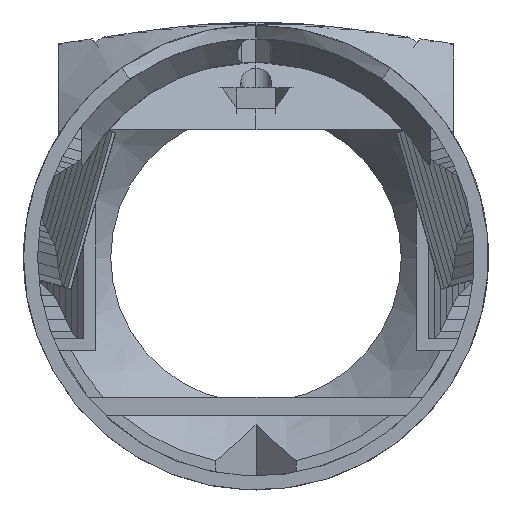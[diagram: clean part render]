
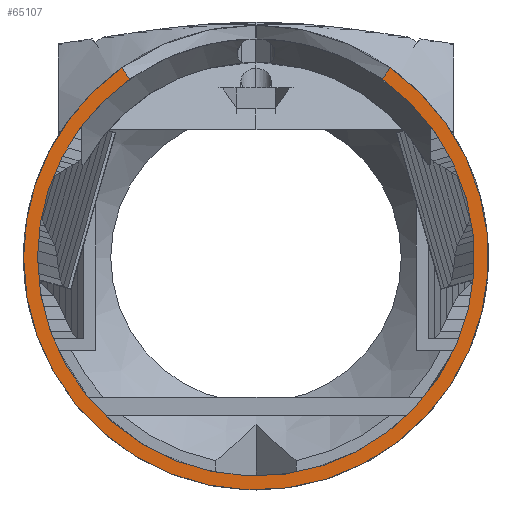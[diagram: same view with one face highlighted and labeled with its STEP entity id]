
A CAD part, left-side view. The second image highlights one B-rep face of the part: STEP entity #65107.
In plain terms, the highlighted planar face has unit normal (-1, 0, 0).
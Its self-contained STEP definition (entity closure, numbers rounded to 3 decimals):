
#22 = VERTEX_POINT('',#23);
#23 = CARTESIAN_POINT('',(198.,-11.551,16.327));
#51 = CYLINDRICAL_SURFACE('',#52,20.);
#52 = AXIS2_PLACEMENT_3D('',#53,#54,#55);
#53 = CARTESIAN_POINT('',(42.,0.,0.));
#54 = DIRECTION('',(1.,0.,0.));
#55 = DIRECTION('',(-0.,1.,0.));
#82 = B_SPLINE_SURFACE_WITH_KNOTS('',1,1,(
    (#83,#84)
    ,(#85,#86)),.UNSPECIFIED.,.F.,.F.,.F.,(2,2),(2,2),(0.,26.),(0.,1.),
  .PIECEWISE_BEZIER_KNOTS.);
#83 = CARTESIAN_POINT('',(193.99,0.,0.));
#84 = CARTESIAN_POINT('',(212.482,0.,0.));
#85 = CARTESIAN_POINT('',(193.99,-18.2,18.568));
#86 = CARTESIAN_POINT('',(212.482,-0.104,
    26.));
#113 = EDGE_CURVE('',#22,#114,#116,.T.);
#114 = VERTEX_POINT('',#115);
#115 = CARTESIAN_POINT('',(198.,20.,0.));
#116 = SURFACE_CURVE('',#117,(#122,#129),.PCURVE_S1.);
#117 = CIRCLE('',#118,20.);
#118 = AXIS2_PLACEMENT_3D('',#119,#120,#121);
#119 = CARTESIAN_POINT('',(198.,0.,0.));
#120 = DIRECTION('',(1.,0.,0.));
#121 = DIRECTION('',(-0.,1.,0.));
#122 = PCURVE('',#51,#123);
#123 = DEFINITIONAL_REPRESENTATION('',(#124),#128);
#124 = LINE('',#125,#126);
#125 = CARTESIAN_POINT('',(0.,156.));
#126 = VECTOR('',#127,1.);
#127 = DIRECTION('',(1.,0.));
#128 = ( GEOMETRIC_REPRESENTATION_CONTEXT(2) 
PARAMETRIC_REPRESENTATION_CONTEXT() REPRESENTATION_CONTEXT('2D SPACE',''
  ) );
#129 = PCURVE('',#130,#135);
#130 = PLANE('',#131);
#131 = AXIS2_PLACEMENT_3D('',#132,#133,#134);
#132 = CARTESIAN_POINT('',(198.,-60.,-120.));
#133 = DIRECTION('',(1.,0.,-0.));
#134 = DIRECTION('',(0.,0.,1.));
#135 = DEFINITIONAL_REPRESENTATION('',(#136),#140);
#136 = CIRCLE('',#137,20.);
#137 = AXIS2_PLACEMENT_2D('',#138,#139);
#138 = CARTESIAN_POINT('',(120.,-60.));
#139 = DIRECTION('',(0.,-1.));
#140 = ( GEOMETRIC_REPRESENTATION_CONTEXT(2) 
PARAMETRIC_REPRESENTATION_CONTEXT() REPRESENTATION_CONTEXT('2D SPACE',''
  ) );
#4011 = EDGE_CURVE('',#114,#4012,#4014,.T.);
#4012 = VERTEX_POINT('',#4013);
#4013 = CARTESIAN_POINT('',(198.,11.551,16.327));
#4014 = SURFACE_CURVE('',#4015,(#4020,#4027),.PCURVE_S1.);
#4015 = CIRCLE('',#4016,20.);
#4016 = AXIS2_PLACEMENT_3D('',#4017,#4018,#4019);
#4017 = CARTESIAN_POINT('',(198.,0.,0.));
#4018 = DIRECTION('',(1.,0.,0.));
#4019 = DIRECTION('',(-0.,1.,0.));
#4020 = PCURVE('',#51,#4021);
#4021 = DEFINITIONAL_REPRESENTATION('',(#4022),#4026);
#4022 = LINE('',#4023,#4024);
#4023 = CARTESIAN_POINT('',(0.,156.));
#4024 = VECTOR('',#4025,1.);
#4025 = DIRECTION('',(1.,0.));
#4026 = ( GEOMETRIC_REPRESENTATION_CONTEXT(2) 
PARAMETRIC_REPRESENTATION_CONTEXT() REPRESENTATION_CONTEXT('2D SPACE',''
  ) );
#4027 = PCURVE('',#130,#4028);
#4028 = DEFINITIONAL_REPRESENTATION('',(#4029),#4033);
#4029 = CIRCLE('',#4030,20.);
#4030 = AXIS2_PLACEMENT_2D('',#4031,#4032);
#4031 = CARTESIAN_POINT('',(120.,-60.));
#4032 = DIRECTION('',(0.,-1.));
#4033 = ( GEOMETRIC_REPRESENTATION_CONTEXT(2) 
PARAMETRIC_REPRESENTATION_CONTEXT() REPRESENTATION_CONTEXT('2D SPACE',''
  ) );
#4089 = B_SPLINE_SURFACE_WITH_KNOTS('',1,1,(
    (#4090,#4091)
    ,(#4092,#4093
    )),.UNSPECIFIED.,.F.,.F.,.F.,(2,2),(2,2),(0.,26.),(0.,1.),
  .PIECEWISE_BEZIER_KNOTS.);
#4090 = CARTESIAN_POINT('',(193.99,18.2,18.568));
#4091 = CARTESIAN_POINT('',(212.482,0.104,
    26.));
#4092 = CARTESIAN_POINT('',(193.99,0.,0.));
#4093 = CARTESIAN_POINT('',(212.482,0.,0.));
#6229 = CYLINDRICAL_SURFACE('',#6230,18.8);
#6230 = AXIS2_PLACEMENT_3D('',#6231,#6232,#6233);
#6231 = CARTESIAN_POINT('',(42.,0.,0.));
#6232 = DIRECTION('',(1.,0.,0.));
#6233 = DIRECTION('',(-0.,1.,0.));
#8410 = VERTEX_POINT('',#8411);
#8411 = CARTESIAN_POINT('',(198.,-10.858,15.348));
#8491 = EDGE_CURVE('',#8410,#8492,#8494,.T.);
#8492 = VERTEX_POINT('',#8493);
#8493 = CARTESIAN_POINT('',(198.,18.8,0.));
#8494 = SURFACE_CURVE('',#8495,(#8500,#8507),.PCURVE_S1.);
#8495 = CIRCLE('',#8496,18.8);
#8496 = AXIS2_PLACEMENT_3D('',#8497,#8498,#8499);
#8497 = CARTESIAN_POINT('',(198.,0.,0.));
#8498 = DIRECTION('',(1.,0.,0.));
#8499 = DIRECTION('',(-0.,1.,0.));
#8500 = PCURVE('',#6229,#8501);
#8501 = DEFINITIONAL_REPRESENTATION('',(#8502),#8506);
#8502 = LINE('',#8503,#8504);
#8503 = CARTESIAN_POINT('',(0.,156.));
#8504 = VECTOR('',#8505,1.);
#8505 = DIRECTION('',(1.,0.));
#8506 = ( GEOMETRIC_REPRESENTATION_CONTEXT(2) 
PARAMETRIC_REPRESENTATION_CONTEXT() REPRESENTATION_CONTEXT('2D SPACE',''
  ) );
#8507 = PCURVE('',#130,#8508);
#8508 = DEFINITIONAL_REPRESENTATION('',(#8509),#8513);
#8509 = CIRCLE('',#8510,18.8);
#8510 = AXIS2_PLACEMENT_2D('',#8511,#8512);
#8511 = CARTESIAN_POINT('',(120.,-60.));
#8512 = DIRECTION('',(0.,-1.));
#8513 = ( GEOMETRIC_REPRESENTATION_CONTEXT(2) 
PARAMETRIC_REPRESENTATION_CONTEXT() REPRESENTATION_CONTEXT('2D SPACE',''
  ) );
#13760 = EDGE_CURVE('',#8492,#13761,#13763,.T.);
#13761 = VERTEX_POINT('',#13762);
#13762 = CARTESIAN_POINT('',(198.,10.858,15.348));
#13763 = SURFACE_CURVE('',#13764,(#13769,#13776),.PCURVE_S1.);
#13764 = CIRCLE('',#13765,18.8);
#13765 = AXIS2_PLACEMENT_3D('',#13766,#13767,#13768);
#13766 = CARTESIAN_POINT('',(198.,0.,0.));
#13767 = DIRECTION('',(1.,0.,0.));
#13768 = DIRECTION('',(-0.,1.,0.));
#13769 = PCURVE('',#6229,#13770);
#13770 = DEFINITIONAL_REPRESENTATION('',(#13771),#13775);
#13771 = LINE('',#13772,#13773);
#13772 = CARTESIAN_POINT('',(0.,156.));
#13773 = VECTOR('',#13774,1.);
#13774 = DIRECTION('',(1.,0.));
#13775 = ( GEOMETRIC_REPRESENTATION_CONTEXT(2) 
PARAMETRIC_REPRESENTATION_CONTEXT() REPRESENTATION_CONTEXT('2D SPACE',''
  ) );
#13776 = PCURVE('',#130,#13777);
#13777 = DEFINITIONAL_REPRESENTATION('',(#13778),#13782);
#13778 = CIRCLE('',#13779,18.8);
#13779 = AXIS2_PLACEMENT_2D('',#13780,#13781);
#13780 = CARTESIAN_POINT('',(120.,-60.));
#13781 = DIRECTION('',(0.,-1.));
#13782 = ( GEOMETRIC_REPRESENTATION_CONTEXT(2) 
PARAMETRIC_REPRESENTATION_CONTEXT() REPRESENTATION_CONTEXT('2D SPACE',''
  ) );
#60301 = EDGE_CURVE('',#13761,#4012,#60302,.T.);
#60302 = SURFACE_CURVE('',#60303,(#60306,#60312),.PCURVE_S1.);
#60303 = B_SPLINE_CURVE_WITH_KNOTS('',1,(#60304,#60305),.UNSPECIFIED.,
  .F.,.F.,(2,2),(0.,1.),.PIECEWISE_BEZIER_KNOTS.);
#60304 = CARTESIAN_POINT('',(198.,10.323,14.591));
#60305 = CARTESIAN_POINT('',(198.,11.852,16.753));
#60306 = PCURVE('',#4089,#60307);
#60307 = DEFINITIONAL_REPRESENTATION('',(#60308),#60311);
#60308 = B_SPLINE_CURVE_WITH_KNOTS('',1,(#60309,#60310),.UNSPECIFIED.,
  .F.,.F.,(2,2),(0.,1.),.PIECEWISE_BEZIER_KNOTS.);
#60309 = CARTESIAN_POINT('',(7.2,0.217));
#60310 = CARTESIAN_POINT('',(4.414,0.217));
#60311 = ( GEOMETRIC_REPRESENTATION_CONTEXT(2) 
PARAMETRIC_REPRESENTATION_CONTEXT() REPRESENTATION_CONTEXT('2D SPACE',''
  ) );
#60312 = PCURVE('',#130,#60313);
#60313 = DEFINITIONAL_REPRESENTATION('',(#60314),#60317);
#60314 = B_SPLINE_CURVE_WITH_KNOTS('',1,(#60315,#60316),.UNSPECIFIED.,
  .F.,.F.,(2,2),(0.,1.),.PIECEWISE_BEZIER_KNOTS.);
#60315 = CARTESIAN_POINT('',(134.591,-70.323));
#60316 = CARTESIAN_POINT('',(136.753,-71.852));
#60317 = ( GEOMETRIC_REPRESENTATION_CONTEXT(2) 
PARAMETRIC_REPRESENTATION_CONTEXT() REPRESENTATION_CONTEXT('2D SPACE',''
  ) );
#65107 = ADVANCED_FACE('',(#65108),#130,.F.);
#65108 = FACE_BOUND('',#65109,.F.);
#65109 = EDGE_LOOP('',(#65110,#65111,#65112,#65113,#65114,#65115));
#65110 = ORIENTED_EDGE('',*,*,#113,.T.);
#65111 = ORIENTED_EDGE('',*,*,#4011,.T.);
#65112 = ORIENTED_EDGE('',*,*,#60301,.F.);
#65113 = ORIENTED_EDGE('',*,*,#13760,.F.);
#65114 = ORIENTED_EDGE('',*,*,#8491,.F.);
#65115 = ORIENTED_EDGE('',*,*,#65116,.F.);
#65116 = EDGE_CURVE('',#22,#8410,#65117,.T.);
#65117 = SURFACE_CURVE('',#65118,(#65121,#65127),.PCURVE_S1.);
#65118 = B_SPLINE_CURVE_WITH_KNOTS('',1,(#65119,#65120),.UNSPECIFIED.,
  .F.,.F.,(2,2),(0.,1.),.PIECEWISE_BEZIER_KNOTS.);
#65119 = CARTESIAN_POINT('',(198.,-11.852,16.753));
#65120 = CARTESIAN_POINT('',(198.,-10.323,14.591));
#65121 = PCURVE('',#130,#65122);
#65122 = DEFINITIONAL_REPRESENTATION('',(#65123),#65126);
#65123 = B_SPLINE_CURVE_WITH_KNOTS('',1,(#65124,#65125),.UNSPECIFIED.,
  .F.,.F.,(2,2),(0.,1.),.PIECEWISE_BEZIER_KNOTS.);
#65124 = CARTESIAN_POINT('',(136.753,-48.148));
#65125 = CARTESIAN_POINT('',(134.591,-49.677));
#65126 = ( GEOMETRIC_REPRESENTATION_CONTEXT(2) 
PARAMETRIC_REPRESENTATION_CONTEXT() REPRESENTATION_CONTEXT('2D SPACE',''
  ) );
#65127 = PCURVE('',#82,#65128);
#65128 = DEFINITIONAL_REPRESENTATION('',(#65129),#65132);
#65129 = B_SPLINE_CURVE_WITH_KNOTS('',1,(#65130,#65131),.UNSPECIFIED.,
  .F.,.F.,(2,2),(0.,1.),.PIECEWISE_BEZIER_KNOTS.);
#65130 = CARTESIAN_POINT('',(21.586,0.217));
#65131 = CARTESIAN_POINT('',(18.8,0.217));
#65132 = ( GEOMETRIC_REPRESENTATION_CONTEXT(2) 
PARAMETRIC_REPRESENTATION_CONTEXT() REPRESENTATION_CONTEXT('2D SPACE',''
  ) );
